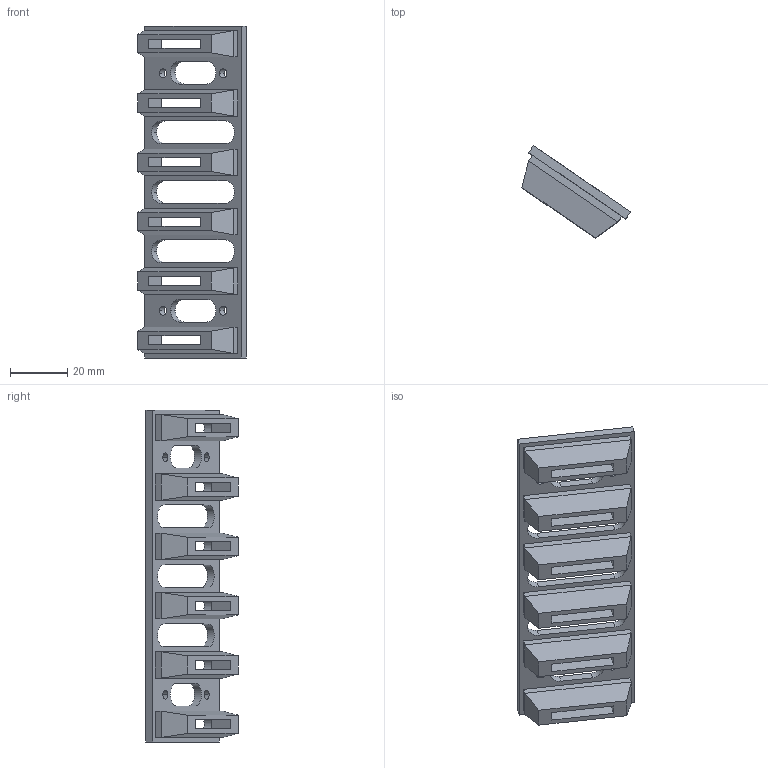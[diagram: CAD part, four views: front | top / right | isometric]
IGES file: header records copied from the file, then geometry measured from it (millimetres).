
Start section: 3D InterOp IGES (Version 21 0 3), Spatial Corp. Copyright (c) 1999-2007.
Global section: file name: CSR Coin Slots - 20120811.igs; native system: Spatial Corp.; preprocessor: 3D InterOp GENERIC/IGES 3.0; author: Noname; organization: Noname; date: 20140501.124612; units: inch
Bounding box: 37.71 x 32.1 x 115.51 mm (x, y, z)
Surface area: 18508.3 mm2 (no closed solid volume)
Topology: 0 solids, 0 shells, 153 faces, 786 edges, 786 vertices
Faces by surface type: extrusion 112, revolution 41
